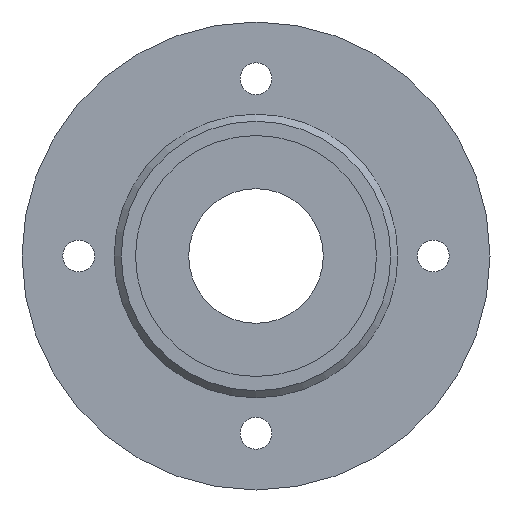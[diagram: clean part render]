
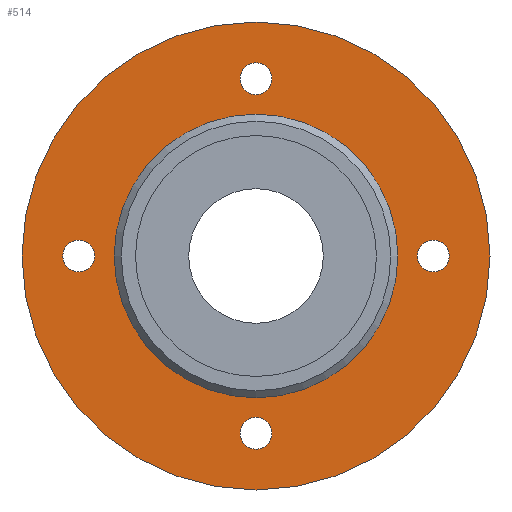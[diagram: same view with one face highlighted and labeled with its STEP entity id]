
A CAD part, left-side view. The second image highlights one B-rep face of the part: STEP entity #514.
In plain terms, the highlighted planar face has unit normal (-1, 0, 0).
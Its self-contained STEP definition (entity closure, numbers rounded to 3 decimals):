
#33=FACE_BOUND('',#130,.T.);
#34=FACE_BOUND('',#131,.T.);
#35=FACE_BOUND('',#132,.T.);
#36=FACE_BOUND('',#133,.T.);
#37=FACE_BOUND('',#134,.T.);
#47=PLANE('',#618);
#90=FACE_OUTER_BOUND('',#129,.T.);
#129=EDGE_LOOP('',(#476));
#130=EDGE_LOOP('',(#477));
#131=EDGE_LOOP('',(#478));
#132=EDGE_LOOP('',(#479));
#133=EDGE_LOOP('',(#480));
#134=EDGE_LOOP('',(#481));
#182=CIRCLE('',#564,20.);
#199=CIRCLE('',#584,33.);
#208=CIRCLE('',#599,2.25);
#211=CIRCLE('',#605,2.25);
#214=CIRCLE('',#611,2.25);
#217=CIRCLE('',#617,2.25);
#232=VERTEX_POINT('',#845);
#248=VERTEX_POINT('',#882);
#256=VERTEX_POINT('',#976);
#259=VERTEX_POINT('',#987);
#262=VERTEX_POINT('',#998);
#265=VERTEX_POINT('',#1009);
#286=EDGE_CURVE('',#232,#232,#182,.T.);
#305=EDGE_CURVE('',#248,#248,#199,.T.);
#322=EDGE_CURVE('',#256,#256,#208,.T.);
#327=EDGE_CURVE('',#259,#259,#211,.T.);
#332=EDGE_CURVE('',#262,#262,#214,.T.);
#337=EDGE_CURVE('',#265,#265,#217,.T.);
#476=ORIENTED_EDGE('',*,*,#305,.F.);
#477=ORIENTED_EDGE('',*,*,#322,.T.);
#478=ORIENTED_EDGE('',*,*,#327,.T.);
#479=ORIENTED_EDGE('',*,*,#332,.T.);
#480=ORIENTED_EDGE('',*,*,#337,.T.);
#481=ORIENTED_EDGE('',*,*,#286,.T.);
#514=ADVANCED_FACE('',(#90,#33,#34,#35,#36,#37),#47,.T.);
#564=AXIS2_PLACEMENT_3D('',#846,#678,#679);
#584=AXIS2_PLACEMENT_3D('',#884,#720,#721);
#599=AXIS2_PLACEMENT_3D('',#978,#753,#754);
#605=AXIS2_PLACEMENT_3D('',#989,#767,#768);
#611=AXIS2_PLACEMENT_3D('',#1000,#781,#782);
#617=AXIS2_PLACEMENT_3D('',#1011,#795,#796);
#618=AXIS2_PLACEMENT_3D('',#1012,#797,#798);
#678=DIRECTION('center_axis',(1.,0.,0.));
#679=DIRECTION('ref_axis',(0.,0.,-1.));
#720=DIRECTION('center_axis',(1.,0.,0.));
#721=DIRECTION('ref_axis',(0.,0.,-1.));
#753=DIRECTION('center_axis',(1.,0.,0.));
#754=DIRECTION('ref_axis',(0.,-1.,0.));
#767=DIRECTION('center_axis',(1.,0.,0.));
#768=DIRECTION('ref_axis',(0.,0.,1.));
#781=DIRECTION('center_axis',(1.,0.,0.));
#782=DIRECTION('ref_axis',(0.,1.,0.));
#795=DIRECTION('center_axis',(1.,0.,0.));
#796=DIRECTION('ref_axis',(0.,0.,-1.));
#797=DIRECTION('center_axis',(-1.,0.,0.));
#798=DIRECTION('ref_axis',(0.,0.,1.));
#845=CARTESIAN_POINT('',(3.,-20.,0.));
#846=CARTESIAN_POINT('Origin',(3.,0.,0.));
#882=CARTESIAN_POINT('',(3.,-33.,0.));
#884=CARTESIAN_POINT('Origin',(3.,0.,0.));
#976=CARTESIAN_POINT('',(3.,2.25,-25.));
#978=CARTESIAN_POINT('Origin',(3.,0.,-25.));
#987=CARTESIAN_POINT('',(3.,-25.,-2.25));
#989=CARTESIAN_POINT('Origin',(3.,-25.,0.));
#998=CARTESIAN_POINT('',(3.,-2.25,25.));
#1000=CARTESIAN_POINT('Origin',(3.,0.,25.));
#1009=CARTESIAN_POINT('',(3.,25.,2.25));
#1011=CARTESIAN_POINT('Origin',(3.,25.,0.));
#1012=CARTESIAN_POINT('Origin',(3.,33.,0.));
